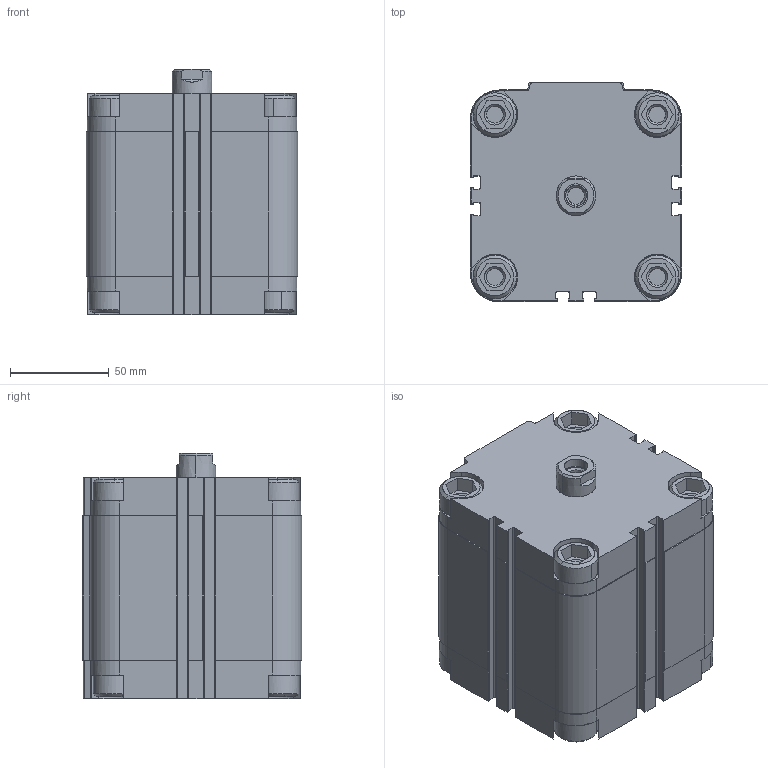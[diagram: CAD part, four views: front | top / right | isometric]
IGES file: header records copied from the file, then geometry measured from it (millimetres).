
Start section: SolidWorks IGES file using analytic representation for surfaces
Global section: file name: K:\Disegni Esecutivi\Cilindri\2_DISEGNI_cilindri_in_produzione\5_Cilindri Compatti\complessivicompatti\QF\QF080\QF80 PARTI\QF0800050A.igs; native system: SolidWorks 2011; preprocessor: SolidWorks 2011; author: Cad01; date: 110920.104817; units: millimetre
Bounding box: 107 x 111 x 124.1 mm (x, y, z)
Surface area: 92590 mm2 (no closed solid volume)
Topology: 0 solids, 0 shells, 417 faces, 5103 edges, 5099 vertices
Faces by surface type: bspline 212, revolution 205
